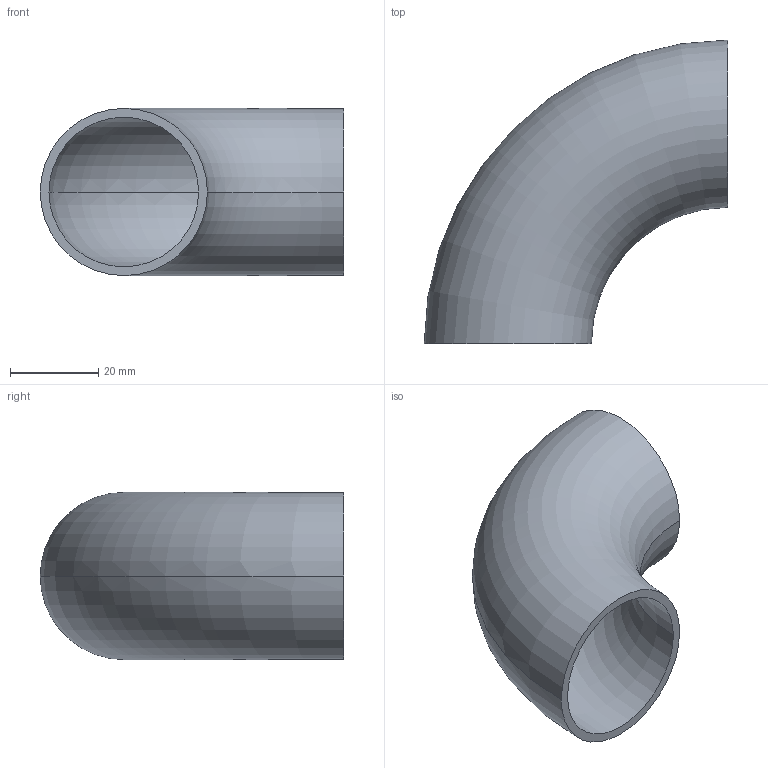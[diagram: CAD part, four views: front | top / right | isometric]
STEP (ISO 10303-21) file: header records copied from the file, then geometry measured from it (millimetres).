
FILE_DESCRIPTION (( 'STEP AP203' ), '1' );
FILE_NAME ('OT212-32-38x2_OSTP.step', '2020-12-16T02:15:13', ( '' ), ( '' ), 'SwSTEP 2.0', 'SolidWorks 2014', '' );
FILE_SCHEMA (( 'CONFIG_CONTROL_DESIGN' ));
Length unit declared in the file: millimetre
Products named in the file (1): OT212-32-38x2_OSTP
Bounding box: 69 x 69 x 38 mm (x, y, z)
Volume: 17765.3 mm3; surface area: 18217.7 mm2
Topology: 1 solids, 1 shells, 6 faces, 12 edges, 8 vertices
Faces by surface type: torus 4, plane 2
Entity records: 249 total; most frequent: DIRECTION 38, CARTESIAN_POINT 27, ORIENTED_EDGE 24, AXIS2_PLACEMENT_3D 19, EDGE_CURVE 12, CIRCLE 12, EDGE_LOOP 8, VERTEX_POINT 8
